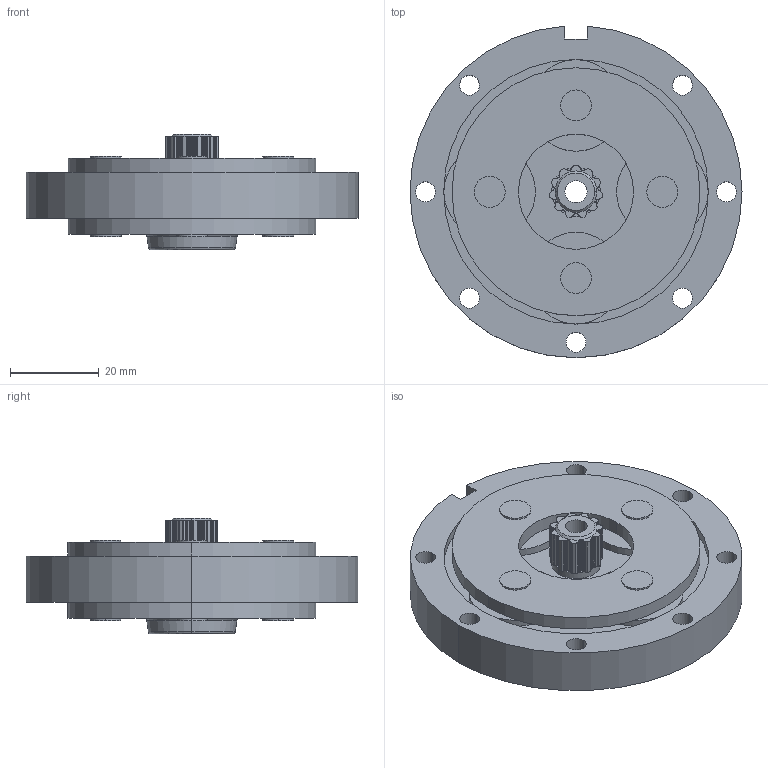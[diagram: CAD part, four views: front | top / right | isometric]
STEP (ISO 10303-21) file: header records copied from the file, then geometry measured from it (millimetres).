
FILE_DESCRIPTION (( 'STEP AP203' ), '1' );
FILE_NAME ('LGU75-4SLD.step', '2021-07-23T02:25:54', ( '' ), ( '' ), 'SwSTEP 2.0', 'SolidWorks 2021', '' );
FILE_SCHEMA (( 'CONFIG_CONTROL_DESIGN' ));
Length unit declared in the file: millimetre
Products named in the file (1): LGU75-4SLD
Bounding box: 75 x 74.92 x 26.15 mm (x, y, z)
Volume: 54441.1 mm3; surface area: 24725.6 mm2
Topology: 1 solids, 1 shells, 450 faces, 1243 edges, 820 vertices
Faces by surface type: cylinder 390, plane 52, cone 4, torus 4
Entity records: 14980 total; most frequent: DIRECTION 2985, CARTESIAN_POINT 2514, ORIENTED_EDGE 2486, AXIS2_PLACEMENT_3D 1291, EDGE_CURVE 1243, CIRCLE 840, VERTEX_POINT 820, EDGE_LOOP 507
